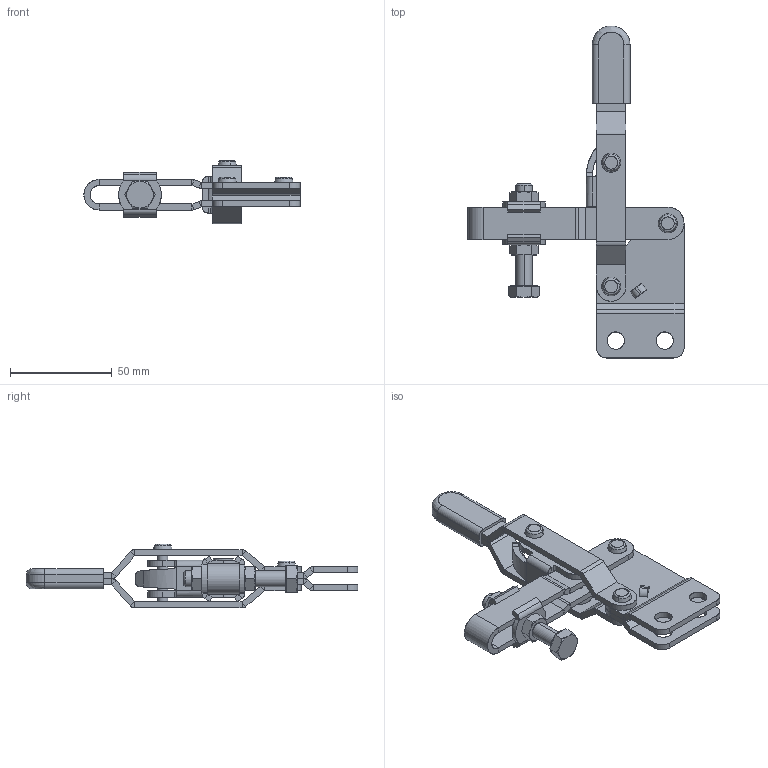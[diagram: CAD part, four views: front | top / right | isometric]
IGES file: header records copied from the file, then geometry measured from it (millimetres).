
Start section: SolidWorks IGES file using analytic representation for surfaces
Global section: file name: \\KOUGU-SV1\Public\Solidworks\工具事業部\坂入用\Toggle clamp\ISK-42\ISK-42K0-T1\ISK-42K0_AssyT1.IGS; native system: SolidWorks 2020; preprocessor: SolidWorks 2020; author: design_room 03; date: 230210.152330; units: millimetre
Bounding box: 106 x 162.8 x 31.2 mm (x, y, z)
Surface area: 44107.2 mm2 (no closed solid volume)
Topology: 0 solids, 0 shells, 470 faces, 5656 edges, 5648 vertices
Faces by surface type: bspline 269, revolution 201
